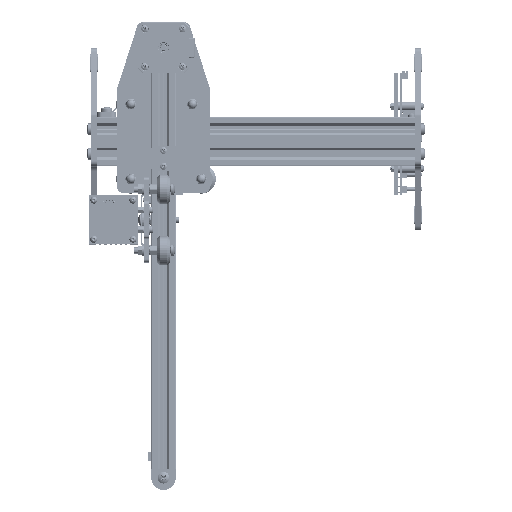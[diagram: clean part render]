
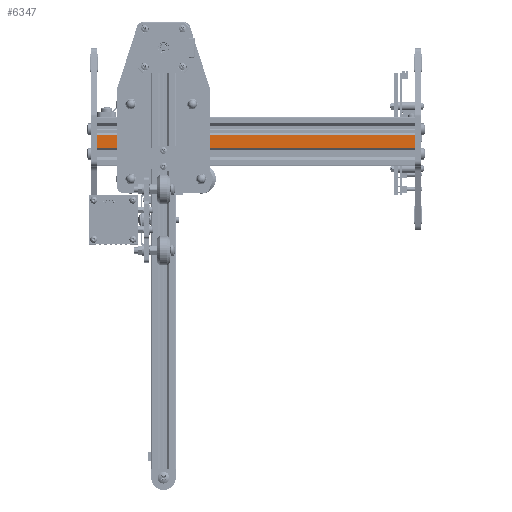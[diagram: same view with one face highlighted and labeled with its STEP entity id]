
A CAD part, top view. The second image highlights one B-rep face of the part: STEP entity #6347.
In plain terms, the highlighted planar face has unit normal (0, 0, 1).
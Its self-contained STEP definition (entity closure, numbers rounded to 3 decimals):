
#109 = PLANE('',#110);
#110 = AXIS2_PLACEMENT_3D('',#111,#112,#113);
#111 = CARTESIAN_POINT('',(0.,0.,0.));
#112 = DIRECTION('',(0.,1.,0.));
#113 = DIRECTION('',(0.,0.,1.));
#165 = PLANE('',#166);
#166 = AXIS2_PLACEMENT_3D('',#167,#168,#169);
#167 = CARTESIAN_POINT('',(0.,-260.,0.));
#168 = DIRECTION('',(0.,1.,0.));
#169 = DIRECTION('',(0.,0.,1.));
#568 = VERTEX_POINT('',#569);
#569 = CARTESIAN_POINT('',(-5.15,0.,10.));
#583 = PLANE('',#584);
#584 = AXIS2_PLACEMENT_3D('',#585,#586,#587);
#585 = CARTESIAN_POINT('',(-6.95,-260.,8.2));
#586 = DIRECTION('',(0.707,0.,-0.707));
#587 = DIRECTION('',(0.707,0.,0.707));
#595 = EDGE_CURVE('',#596,#568,#598,.T.);
#596 = VERTEX_POINT('',#597);
#597 = CARTESIAN_POINT('',(5.15,0.,10.));
#598 = SURFACE_CURVE('',#599,(#603,#610),.PCURVE_S1.);
#599 = LINE('',#600,#601);
#600 = CARTESIAN_POINT('',(20.,0.,10.));
#601 = VECTOR('',#602,1.);
#602 = DIRECTION('',(-1.,0.,0.));
#603 = PCURVE('',#109,#604);
#604 = DEFINITIONAL_REPRESENTATION('',(#605),#609);
#605 = LINE('',#606,#607);
#606 = CARTESIAN_POINT('',(10.,20.));
#607 = VECTOR('',#608,1.);
#608 = DIRECTION('',(-0.,-1.));
#609 = ( GEOMETRIC_REPRESENTATION_CONTEXT(2) 
PARAMETRIC_REPRESENTATION_CONTEXT() REPRESENTATION_CONTEXT('2D SPACE',''
  ) );
#610 = PCURVE('',#611,#616);
#611 = PLANE('',#612);
#612 = AXIS2_PLACEMENT_3D('',#613,#614,#615);
#613 = CARTESIAN_POINT('',(20.,0.,10.));
#614 = DIRECTION('',(0.,0.,-1.));
#615 = DIRECTION('',(-1.,0.,0.));
#616 = DEFINITIONAL_REPRESENTATION('',(#617),#621);
#617 = LINE('',#618,#619);
#618 = CARTESIAN_POINT('',(0.,0.));
#619 = VECTOR('',#620,1.);
#620 = DIRECTION('',(1.,0.));
#621 = ( GEOMETRIC_REPRESENTATION_CONTEXT(2) 
PARAMETRIC_REPRESENTATION_CONTEXT() REPRESENTATION_CONTEXT('2D SPACE',''
  ) );
#639 = PLANE('',#640);
#640 = AXIS2_PLACEMENT_3D('',#641,#642,#643);
#641 = CARTESIAN_POINT('',(5.15,-260.,10.));
#642 = DIRECTION('',(-0.707,0.,-0.707));
#643 = DIRECTION('',(0.707,0.,-0.707));
#3536 = VERTEX_POINT('',#3537);
#3537 = CARTESIAN_POINT('',(-5.15,-260.,10.));
#3558 = EDGE_CURVE('',#3559,#3536,#3561,.T.);
#3559 = VERTEX_POINT('',#3560);
#3560 = CARTESIAN_POINT('',(5.15,-260.,10.));
#3561 = SURFACE_CURVE('',#3562,(#3566,#3573),.PCURVE_S1.);
#3562 = LINE('',#3563,#3564);
#3563 = CARTESIAN_POINT('',(20.,-260.,10.));
#3564 = VECTOR('',#3565,1.);
#3565 = DIRECTION('',(-1.,0.,0.));
#3566 = PCURVE('',#165,#3567);
#3567 = DEFINITIONAL_REPRESENTATION('',(#3568),#3572);
#3568 = LINE('',#3569,#3570);
#3569 = CARTESIAN_POINT('',(10.,20.));
#3570 = VECTOR('',#3571,1.);
#3571 = DIRECTION('',(-0.,-1.));
#3572 = ( GEOMETRIC_REPRESENTATION_CONTEXT(2) 
PARAMETRIC_REPRESENTATION_CONTEXT() REPRESENTATION_CONTEXT('2D SPACE',''
  ) );
#3573 = PCURVE('',#611,#3574);
#3574 = DEFINITIONAL_REPRESENTATION('',(#3575),#3579);
#3575 = LINE('',#3576,#3577);
#3576 = CARTESIAN_POINT('',(0.,-260.));
#3577 = VECTOR('',#3578,1.);
#3578 = DIRECTION('',(1.,0.));
#3579 = ( GEOMETRIC_REPRESENTATION_CONTEXT(2) 
PARAMETRIC_REPRESENTATION_CONTEXT() REPRESENTATION_CONTEXT('2D SPACE',''
  ) );
#6300 = EDGE_CURVE('',#3536,#568,#6301,.T.);
#6301 = SURFACE_CURVE('',#6302,(#6306,#6313),.PCURVE_S1.);
#6302 = LINE('',#6303,#6304);
#6303 = CARTESIAN_POINT('',(-5.15,-260.,10.));
#6304 = VECTOR('',#6305,1.);
#6305 = DIRECTION('',(0.,1.,0.));
#6306 = PCURVE('',#583,#6307);
#6307 = DEFINITIONAL_REPRESENTATION('',(#6308),#6312);
#6308 = LINE('',#6309,#6310);
#6309 = CARTESIAN_POINT('',(2.546,0.));
#6310 = VECTOR('',#6311,1.);
#6311 = DIRECTION('',(0.,-1.));
#6312 = ( GEOMETRIC_REPRESENTATION_CONTEXT(2) 
PARAMETRIC_REPRESENTATION_CONTEXT() REPRESENTATION_CONTEXT('2D SPACE',''
  ) );
#6313 = PCURVE('',#611,#6314);
#6314 = DEFINITIONAL_REPRESENTATION('',(#6315),#6319);
#6315 = LINE('',#6316,#6317);
#6316 = CARTESIAN_POINT('',(25.15,-260.));
#6317 = VECTOR('',#6318,1.);
#6318 = DIRECTION('',(-0.,1.));
#6319 = ( GEOMETRIC_REPRESENTATION_CONTEXT(2) 
PARAMETRIC_REPRESENTATION_CONTEXT() REPRESENTATION_CONTEXT('2D SPACE',''
  ) );
#6347 = ADVANCED_FACE('',(#6348),#611,.F.);
#6348 = FACE_BOUND('',#6349,.F.);
#6349 = EDGE_LOOP('',(#6350,#6351,#6372,#6373));
#6350 = ORIENTED_EDGE('',*,*,#595,.F.);
#6351 = ORIENTED_EDGE('',*,*,#6352,.F.);
#6352 = EDGE_CURVE('',#3559,#596,#6353,.T.);
#6353 = SURFACE_CURVE('',#6354,(#6358,#6365),.PCURVE_S1.);
#6354 = LINE('',#6355,#6356);
#6355 = CARTESIAN_POINT('',(5.15,-260.,10.));
#6356 = VECTOR('',#6357,1.);
#6357 = DIRECTION('',(0.,1.,0.));
#6358 = PCURVE('',#611,#6359);
#6359 = DEFINITIONAL_REPRESENTATION('',(#6360),#6364);
#6360 = LINE('',#6361,#6362);
#6361 = CARTESIAN_POINT('',(14.85,-260.));
#6362 = VECTOR('',#6363,1.);
#6363 = DIRECTION('',(-0.,1.));
#6364 = ( GEOMETRIC_REPRESENTATION_CONTEXT(2) 
PARAMETRIC_REPRESENTATION_CONTEXT() REPRESENTATION_CONTEXT('2D SPACE',''
  ) );
#6365 = PCURVE('',#639,#6366);
#6366 = DEFINITIONAL_REPRESENTATION('',(#6367),#6371);
#6367 = LINE('',#6368,#6369);
#6368 = CARTESIAN_POINT('',(0.,0.));
#6369 = VECTOR('',#6370,1.);
#6370 = DIRECTION('',(0.,-1.));
#6371 = ( GEOMETRIC_REPRESENTATION_CONTEXT(2) 
PARAMETRIC_REPRESENTATION_CONTEXT() REPRESENTATION_CONTEXT('2D SPACE',''
  ) );
#6372 = ORIENTED_EDGE('',*,*,#3558,.T.);
#6373 = ORIENTED_EDGE('',*,*,#6300,.T.);
